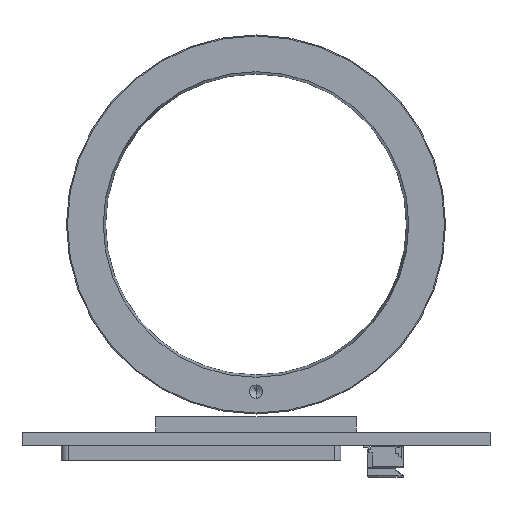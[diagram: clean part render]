
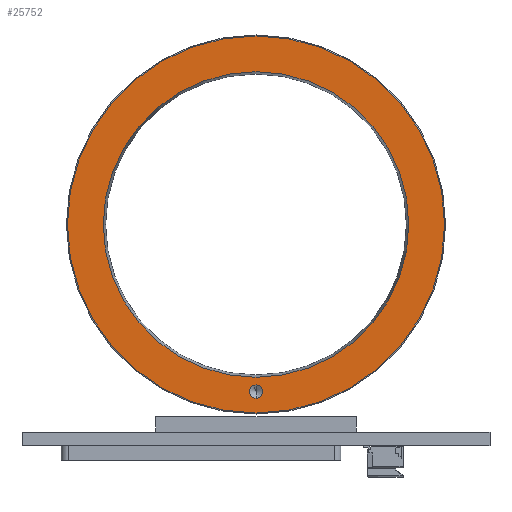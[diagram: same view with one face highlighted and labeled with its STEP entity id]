
A CAD part, front view. The second image highlights one B-rep face of the part: STEP entity #25752.
In plain terms, the highlighted planar face has unit normal (0, -1, 0).
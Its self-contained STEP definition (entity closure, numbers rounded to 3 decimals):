
#420 = DIRECTION ( 'NONE',  ( 0., -1., 0. ) ) ;
#1728 = ORIENTED_EDGE ( 'NONE', *, *, #59083, .T. ) ;
#2059 = AXIS2_PLACEMENT_3D ( 'NONE', #28696, #2999, #60315 ) ;
#2382 = CARTESIAN_POINT ( 'NONE',  ( 0., 0., -28.2 ) ) ;
#2999 = DIRECTION ( 'NONE',  ( 0., -1., 0. ) ) ;
#5717 = CARTESIAN_POINT ( 'NONE',  ( 0., 0., -26. ) ) ;
#7567 = EDGE_CURVE ( 'NONE', #58102, #33918, #55491, .T. ) ;
#8898 = DIRECTION ( 'NONE',  ( 0., -1., 0. ) ) ;
#10333 = FACE_BOUND ( 'NONE', #17286, .T. ) ;
#10369 = VERTEX_POINT ( 'NONE', #39876 ) ;
#11093 = CARTESIAN_POINT ( 'NONE',  ( 0., 0., 22.853 ) ) ;
#15025 = CARTESIAN_POINT ( 'NONE',  ( 0., 0., -25. ) ) ;
#15439 = ORIENTED_EDGE ( 'NONE', *, *, #32378, .T. ) ;
#17286 = EDGE_LOOP ( 'NONE', ( #67159, #35422 ) ) ;
#18550 = AXIS2_PLACEMENT_3D ( 'NONE', #32424, #420, #26071 ) ;
#19455 = CIRCLE ( 'NONE', #42327, 1. ) ;
#19510 = AXIS2_PLACEMENT_3D ( 'NONE', #34978, #8898, #52662 ) ;
#20466 = DIRECTION ( 'NONE',  ( 0., -1., 0. ) ) ;
#23962 = CIRCLE ( 'NONE', #18550, 22.853 ) ;
#24179 = PLANE ( 'NONE',  #64141 ) ;
#25752 = ADVANCED_FACE ( 'NONE', ( #10333, #56222, #68802 ), #24179, .T. ) ;
#26071 = DIRECTION ( 'NONE',  ( 0., 0., -1. ) ) ;
#28696 = CARTESIAN_POINT ( 'NONE',  ( 0., 0., 0. ) ) ;
#32256 = CARTESIAN_POINT ( 'NONE',  ( 0., 0., 0. ) ) ;
#32378 = EDGE_CURVE ( 'NONE', #61205, #74528, #76811, .T. ) ;
#32424 = CARTESIAN_POINT ( 'NONE',  ( 0., 0., 0. ) ) ;
#33918 = VERTEX_POINT ( 'NONE', #11093 ) ;
#34978 = CARTESIAN_POINT ( 'NONE',  ( 0., 0., -25. ) ) ;
#35202 = EDGE_CURVE ( 'NONE', #10369, #56026, #19455, .T. ) ;
#35422 = ORIENTED_EDGE ( 'NONE', *, *, #62152, .F. ) ;
#36353 = EDGE_CURVE ( 'NONE', #56026, #10369, #38314, .T. ) ;
#37642 = CARTESIAN_POINT ( 'NONE',  ( 28.4, 0., 0. ) ) ;
#38314 = CIRCLE ( 'NONE', #19510, 1. ) ;
#38529 = DIRECTION ( 'NONE',  ( 0., 0., -1. ) ) ;
#39876 = CARTESIAN_POINT ( 'NONE',  ( 0., 0., -24. ) ) ;
#40627 = DIRECTION ( 'NONE',  ( 0., 0., -1. ) ) ;
#42327 = AXIS2_PLACEMENT_3D ( 'NONE', #15025, #20466, #40627 ) ;
#43527 = DIRECTION ( 'NONE',  ( 0., 0., -1. ) ) ;
#46972 = EDGE_LOOP ( 'NONE', ( #1728, #15439 ) ) ;
#50074 = CARTESIAN_POINT ( 'NONE',  ( 0., 0., 0. ) ) ;
#51320 = DIRECTION ( 'NONE',  ( 0., -1., 0. ) ) ;
#52448 = DIRECTION ( 'NONE',  ( 0., -1., 0. ) ) ;
#52662 = DIRECTION ( 'NONE',  ( 0., 0., -1. ) ) ;
#52942 = ORIENTED_EDGE ( 'NONE', *, *, #36353, .F. ) ;
#55491 = CIRCLE ( 'NONE', #79581, 22.853 ) ;
#56026 = VERTEX_POINT ( 'NONE', #5717 ) ;
#56222 = FACE_BOUND ( 'NONE', #66869, .T. ) ;
#58102 = VERTEX_POINT ( 'NONE', #66109 ) ;
#59083 = EDGE_CURVE ( 'NONE', #74528, #61205, #74628, .T. ) ;
#59411 = AXIS2_PLACEMENT_3D ( 'NONE', #50074, #51320, #70629 ) ;
#60315 = DIRECTION ( 'NONE',  ( 0., 0., -1. ) ) ;
#61205 = VERTEX_POINT ( 'NONE', #64823 ) ;
#61627 = ORIENTED_EDGE ( 'NONE', *, *, #35202, .F. ) ;
#62152 = EDGE_CURVE ( 'NONE', #33918, #58102, #23962, .T. ) ;
#64141 = AXIS2_PLACEMENT_3D ( 'NONE', #37642, #69216, #43527 ) ;
#64823 = CARTESIAN_POINT ( 'NONE',  ( 0., 0., 28.2 ) ) ;
#66109 = CARTESIAN_POINT ( 'NONE',  ( 0., 0., -22.853 ) ) ;
#66869 = EDGE_LOOP ( 'NONE', ( #52942, #61627 ) ) ;
#67159 = ORIENTED_EDGE ( 'NONE', *, *, #7567, .F. ) ;
#68802 = FACE_OUTER_BOUND ( 'NONE', #46972, .T. ) ;
#69216 = DIRECTION ( 'NONE',  ( 0., -1., 0. ) ) ;
#70629 = DIRECTION ( 'NONE',  ( 0., 0., -1. ) ) ;
#74528 = VERTEX_POINT ( 'NONE', #2382 ) ;
#74628 = CIRCLE ( 'NONE', #2059, 28.2 ) ;
#76811 = CIRCLE ( 'NONE', #59411, 28.2 ) ;
#79581 = AXIS2_PLACEMENT_3D ( 'NONE', #32256, #52448, #38529 ) ;
